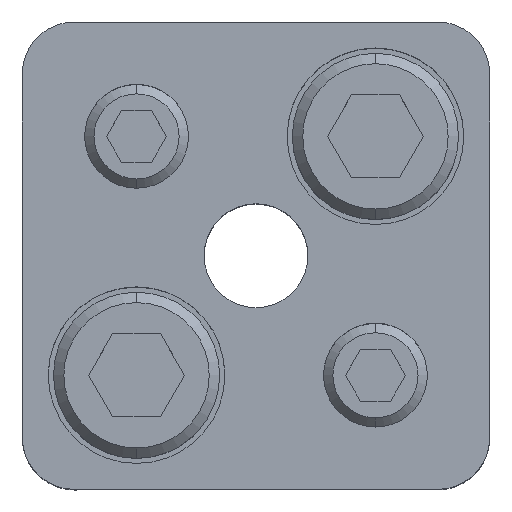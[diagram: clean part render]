
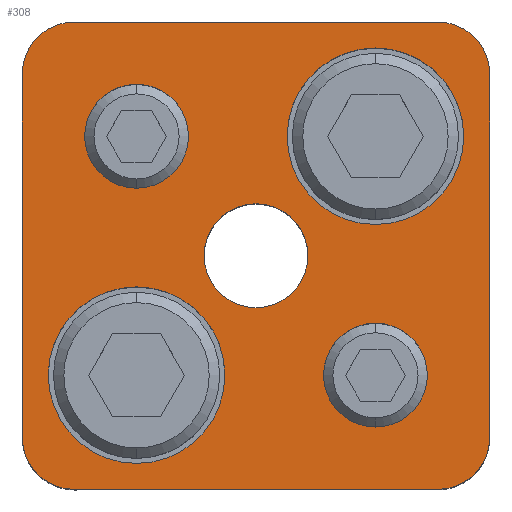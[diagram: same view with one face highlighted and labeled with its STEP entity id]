
A CAD part, top view. The second image highlights one B-rep face of the part: STEP entity #308.
In plain terms, the highlighted planar face has unit normal (0, 0, 1).
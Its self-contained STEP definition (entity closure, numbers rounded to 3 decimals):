
#165=PLANE('',#2567);
#228=FACE_BOUND('',#643,.T.);
#229=FACE_BOUND('',#644,.T.);
#230=FACE_BOUND('',#645,.T.);
#231=FACE_BOUND('',#646,.T.);
#232=FACE_BOUND('',#647,.T.);
#233=FACE_BOUND('',#648,.T.);
#308=ADVANCED_FACE('',(#228,#229,#230,#231,#232,#233),#165,.T.);
#643=EDGE_LOOP('',(#1335,#1336,#1337,#1338,#1339,#1340,#1341,#1342));
#644=EDGE_LOOP('',(#1343,#1344));
#645=EDGE_LOOP('',(#1345,#1346));
#646=EDGE_LOOP('',(#1347,#1348));
#647=EDGE_LOOP('',(#1349,#1350));
#648=EDGE_LOOP('',(#1351,#1352));
#806=LINE('',#3770,#988);
#807=LINE('',#3774,#989);
#808=LINE('',#3778,#990);
#809=LINE('',#3782,#991);
#988=VECTOR('',#3009,1.);
#989=VECTOR('',#3012,1.);
#990=VECTOR('',#3015,1.);
#991=VECTOR('',#3018,1.);
#1335=ORIENTED_EDGE('',*,*,#2102,.T.);
#1336=ORIENTED_EDGE('',*,*,#2103,.T.);
#1337=ORIENTED_EDGE('',*,*,#2104,.T.);
#1338=ORIENTED_EDGE('',*,*,#2105,.T.);
#1339=ORIENTED_EDGE('',*,*,#2106,.T.);
#1340=ORIENTED_EDGE('',*,*,#2107,.T.);
#1341=ORIENTED_EDGE('',*,*,#2108,.T.);
#1342=ORIENTED_EDGE('',*,*,#2109,.T.);
#1343=ORIENTED_EDGE('',*,*,#2110,.F.);
#1344=ORIENTED_EDGE('',*,*,#2111,.F.);
#1345=ORIENTED_EDGE('',*,*,#2112,.F.);
#1346=ORIENTED_EDGE('',*,*,#2113,.F.);
#1347=ORIENTED_EDGE('',*,*,#2088,.F.);
#1348=ORIENTED_EDGE('',*,*,#2084,.F.);
#1349=ORIENTED_EDGE('',*,*,#2082,.F.);
#1350=ORIENTED_EDGE('',*,*,#2078,.F.);
#1351=ORIENTED_EDGE('',*,*,#2114,.T.);
#1352=ORIENTED_EDGE('',*,*,#2115,.T.);
#1837=VERTEX_POINT('',#3718);
#1838=VERTEX_POINT('',#3719);
#1841=VERTEX_POINT('',#3731);
#1842=VERTEX_POINT('',#3732);
#1853=VERTEX_POINT('',#3768);
#1854=VERTEX_POINT('',#3769);
#1855=VERTEX_POINT('',#3771);
#1856=VERTEX_POINT('',#3773);
#1857=VERTEX_POINT('',#3775);
#1858=VERTEX_POINT('',#3777);
#1859=VERTEX_POINT('',#3779);
#1860=VERTEX_POINT('',#3781);
#1861=VERTEX_POINT('',#3784);
#1862=VERTEX_POINT('',#3785);
#1863=VERTEX_POINT('',#3788);
#1864=VERTEX_POINT('',#3789);
#1865=VERTEX_POINT('',#3792);
#1866=VERTEX_POINT('',#3793);
#2078=EDGE_CURVE('',#1837,#1838,#2355,.T.);
#2082=EDGE_CURVE('',#1838,#1837,#2357,.T.);
#2084=EDGE_CURVE('',#1841,#1842,#2359,.T.);
#2088=EDGE_CURVE('',#1842,#1841,#2361,.T.);
#2102=EDGE_CURVE('',#1853,#1854,#2371,.T.);
#2103=EDGE_CURVE('',#1854,#1855,#806,.T.);
#2104=EDGE_CURVE('',#1855,#1856,#2372,.T.);
#2105=EDGE_CURVE('',#1856,#1857,#807,.T.);
#2106=EDGE_CURVE('',#1857,#1858,#2373,.T.);
#2107=EDGE_CURVE('',#1858,#1859,#808,.T.);
#2108=EDGE_CURVE('',#1859,#1860,#2374,.T.);
#2109=EDGE_CURVE('',#1860,#1853,#809,.T.);
#2110=EDGE_CURVE('',#1861,#1862,#2375,.T.);
#2111=EDGE_CURVE('',#1862,#1861,#2376,.T.);
#2112=EDGE_CURVE('',#1863,#1864,#2377,.T.);
#2113=EDGE_CURVE('',#1864,#1863,#2378,.T.);
#2114=EDGE_CURVE('',#1865,#1866,#2379,.T.);
#2115=EDGE_CURVE('',#1866,#1865,#2380,.T.);
#2355=CIRCLE('',#2531,5.);
#2357=CIRCLE('',#2534,5.);
#2359=CIRCLE('',#2538,5.);
#2361=CIRCLE('',#2541,5.);
#2371=CIRCLE('',#2557,5.);
#2372=CIRCLE('',#2558,5.);
#2373=CIRCLE('',#2559,5.);
#2374=CIRCLE('',#2560,5.);
#2375=CIRCLE('',#2561,8.5);
#2376=CIRCLE('',#2562,8.5);
#2377=CIRCLE('',#2563,8.5);
#2378=CIRCLE('',#2564,8.5);
#2379=CIRCLE('',#2565,5.);
#2380=CIRCLE('',#2566,5.);
#2531=AXIS2_PLACEMENT_3D('',#3717,#2947,#2948);
#2534=AXIS2_PLACEMENT_3D('',#3726,#2955,#2956);
#2538=AXIS2_PLACEMENT_3D('',#3730,#2963,#2964);
#2541=AXIS2_PLACEMENT_3D('',#3739,#2971,#2972);
#2557=AXIS2_PLACEMENT_3D('',#3767,#3007,#3008);
#2558=AXIS2_PLACEMENT_3D('',#3772,#3010,#3011);
#2559=AXIS2_PLACEMENT_3D('',#3776,#3013,#3014);
#2560=AXIS2_PLACEMENT_3D('',#3780,#3016,#3017);
#2561=AXIS2_PLACEMENT_3D('',#3783,#3019,#3020);
#2562=AXIS2_PLACEMENT_3D('',#3786,#3021,#3022);
#2563=AXIS2_PLACEMENT_3D('',#3787,#3023,#3024);
#2564=AXIS2_PLACEMENT_3D('',#3790,#3025,#3026);
#2565=AXIS2_PLACEMENT_3D('',#3791,#3027,#3028);
#2566=AXIS2_PLACEMENT_3D('',#3794,#3029,#3030);
#2567=AXIS2_PLACEMENT_3D('',#3795,#3031,#3032);
#2947=DIRECTION('',(0.,0.,1.));
#2948=DIRECTION('',(-1.,0.,0.));
#2955=DIRECTION('',(0.,0.,1.));
#2956=DIRECTION('',(1.,0.,0.));
#2963=DIRECTION('',(0.,0.,1.));
#2964=DIRECTION('',(-1.,0.,0.));
#2971=DIRECTION('',(0.,0.,1.));
#2972=DIRECTION('',(1.,0.,0.));
#3007=DIRECTION('',(0.,0.,1.));
#3008=DIRECTION('',(-0.707,0.707,0.));
#3009=DIRECTION('',(0.,1.,0.));
#3010=DIRECTION('',(0.,0.,1.));
#3011=DIRECTION('',(-0.707,-0.707,0.));
#3012=DIRECTION('',(-1.,0.,0.));
#3013=DIRECTION('',(0.,0.,1.));
#3014=DIRECTION('',(0.707,-0.707,0.));
#3015=DIRECTION('',(0.,-1.,0.));
#3016=DIRECTION('',(0.,0.,1.));
#3017=DIRECTION('',(0.707,0.707,0.));
#3018=DIRECTION('',(1.,0.,0.));
#3019=DIRECTION('',(0.,0.,1.));
#3020=DIRECTION('',(1.,0.,0.));
#3021=DIRECTION('',(0.,0.,1.));
#3022=DIRECTION('',(-1.,0.,0.));
#3023=DIRECTION('',(0.,0.,1.));
#3024=DIRECTION('',(1.,0.,0.));
#3025=DIRECTION('',(0.,0.,1.));
#3026=DIRECTION('',(-1.,0.,0.));
#3027=DIRECTION('',(0.,0.,-1.));
#3028=DIRECTION('',(-1.,0.,0.));
#3029=DIRECTION('',(0.,0.,-1.));
#3030=DIRECTION('',(1.,0.,0.));
#3031=DIRECTION('',(0.,0.,1.));
#3032=DIRECTION('',(-1.,0.,0.));
#3717=CARTESIAN_POINT('',(11.5,-11.5,35.));
#3718=CARTESIAN_POINT('',(11.5,-16.5,35.));
#3719=CARTESIAN_POINT('',(11.5,-6.5,35.));
#3726=CARTESIAN_POINT('',(11.5,-11.5,35.));
#3730=CARTESIAN_POINT('',(-11.5,11.5,35.));
#3731=CARTESIAN_POINT('',(-11.5,6.5,35.));
#3732=CARTESIAN_POINT('',(-11.5,16.5,35.));
#3739=CARTESIAN_POINT('',(-11.5,11.5,35.));
#3767=CARTESIAN_POINT('',(17.5,-17.5,35.));
#3768=CARTESIAN_POINT('',(17.5,-22.5,35.));
#3769=CARTESIAN_POINT('',(22.5,-17.5,35.));
#3770=CARTESIAN_POINT('',(22.5,17.5,35.));
#3771=CARTESIAN_POINT('',(22.5,17.5,35.));
#3772=CARTESIAN_POINT('',(17.5,17.5,35.));
#3773=CARTESIAN_POINT('',(17.5,22.5,35.));
#3774=CARTESIAN_POINT('',(-17.5,22.5,35.));
#3775=CARTESIAN_POINT('',(-17.5,22.5,35.));
#3776=CARTESIAN_POINT('',(-17.5,17.5,35.));
#3777=CARTESIAN_POINT('',(-22.5,17.5,35.));
#3778=CARTESIAN_POINT('',(-22.5,17.5,35.));
#3779=CARTESIAN_POINT('',(-22.5,-17.5,35.));
#3780=CARTESIAN_POINT('',(-17.5,-17.5,35.));
#3781=CARTESIAN_POINT('',(-17.5,-22.5,35.));
#3782=CARTESIAN_POINT('',(-17.5,-22.5,35.));
#3783=CARTESIAN_POINT('',(11.5,11.5,35.));
#3784=CARTESIAN_POINT('',(11.5,20.,35.));
#3785=CARTESIAN_POINT('',(11.5,3.,35.));
#3786=CARTESIAN_POINT('',(11.5,11.5,35.));
#3787=CARTESIAN_POINT('',(-11.5,-11.5,35.));
#3788=CARTESIAN_POINT('',(-11.5,-3.,35.));
#3789=CARTESIAN_POINT('',(-11.5,-20.,35.));
#3790=CARTESIAN_POINT('',(-11.5,-11.5,35.));
#3791=CARTESIAN_POINT('',(0.,0.,35.));
#3792=CARTESIAN_POINT('',(0.,5.,35.));
#3793=CARTESIAN_POINT('',(0.,-5.,35.));
#3794=CARTESIAN_POINT('',(0.,0.,35.));
#3795=CARTESIAN_POINT('',(17.5,-22.5,35.));
